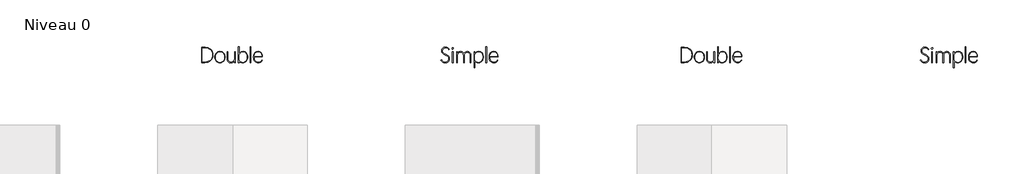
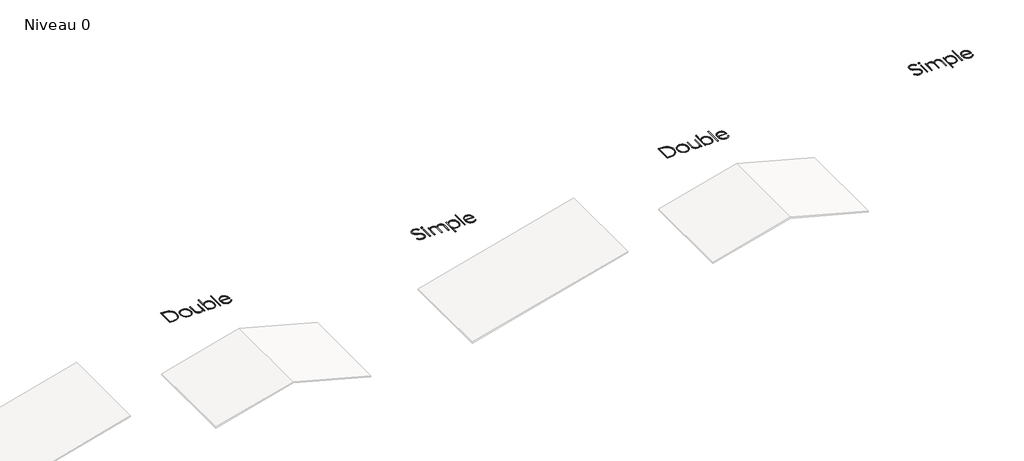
# One storey, part 25 of 26: 4 proxies.
"""IFC4 building model written with IfcOpenShell, lengths in millimetres."""

from ifc_helpers import new_model, si_unit, origin, origin_with_axes, place, context, project, spatial, polyline, outline, extrude, element, save

model = new_model("IFC4")

# Units and contexts
model_context = context("Model", 3, world=origin())
ifc_project = project(units=[si_unit("LENGTHUNIT", "METRE", prefix="MILLI")], contexts=[model_context])

# Site, building, storey
site = spatial("IfcSite", under=ifc_project)
building = spatial("IfcBuilding", under=site)
storey = spatial("IfcBuildingStorey", under=building, Name="Niveau 0", Elevation=0.0)

# Proxies
placement = place(None, origin())
element("IfcBuildingElementProxy", 1, Name="5 mm", ObjectType="5 mm", at=placement, inside=storey, context=model_context, shape_type="SweptSolid", body=[
    extrude(outline(polyline([(2014.4887393, 5620.5662903), (2014.4887393, 6125.5935806), (2125.3813725, 6125.5935806), (2183.3586482, 6121.4660982), (2234.6774824, 6109.0836509), (2279.3378751, 6088.4462389), (2317.3398263, 6059.553862), (2347.6784655, 6023.355043), (2369.3489221, 5980.7983046), (2382.351196, 5931.8836467), (2386.6852873, 5876.6110694), (2382.1962393, 5821.1177963), (2368.7290954, 5771.5410508), (2346.2838554, 5727.880833), (2314.8605195, 5690.1371429), (2275.8396107, 5659.6998949), (2230.6016522, 5637.9590035), (2179.1466439, 5624.9144686), (2121.474586, 5620.5662903), (2014.4887393, 5620.5662903)]), holes=[polyline([(2037.7791975, 6104.1062546), (2037.7791975, 5642.0536163), (2119.0704096, 5642.0536163), (2172.7840289, 5645.9604028), (2220.4778159, 5657.6807624), (2262.1517709, 5677.2146951), (2297.8058937, 5704.5622008), (2326.3695745, 5738.7090178), (2346.7722037, 5778.640884), (2359.0137813, 5824.3577995), (2363.0943071, 5875.8597643), (2359.1217814, 5927.3711204), (2347.2042042, 5972.6654268), (2327.3415755, 6011.7426835), (2299.5338954, 6044.6028905), (2264.6357734, 6070.6356123), (2223.501819, 6089.2304136), (2176.1320322, 6100.3872944), (2122.5264131, 6104.1062546), (2037.7791975, 6104.1062546)])]), origin_with_axes(), (0.0, 0.0, 1.0), 10.0),
    extrude(outline(polyline([(2623.0458727, 5612.1516732), (2586.6498362, 5615.4104591), (2553.9445859, 5625.1868167), (2524.9301219, 5641.4807461), (2499.6064443, 5664.2922473), (2479.0629454, 5692.3347103), (2464.3890176, 5724.321525), (2455.5846609, 5760.2526916), (2452.6498754, 5800.1282099), (2455.6832697, 5840.2479024), (2464.7834528, 5876.4608084), (2479.9504246, 5908.7669278), (2501.184185, 5937.1662607), (2527.0854285, 5960.3064579), (2556.2548491, 5976.8351702), (2588.6924469, 5986.7523975), (2624.3982219, 5990.05814), (2660.6299105, 5986.7430062), (2693.1426389, 5976.7976049), (2721.9364069, 5960.2219361), (2747.0112147, 5937.0159997), (2767.3246265, 5908.6166668), (2781.8342063, 5876.4608084), (2790.5399541, 5840.5484245), (2793.4418701, 5800.879515), (2790.5023889, 5761.1026055), (2781.6839452, 5725.1667433), (2766.9865392, 5693.0719284), (2746.4101707, 5664.8181609), (2721.0630147, 5641.7765725), (2692.0532465, 5625.3182951), (2659.3808658, 5615.4433287), (2623.0458727, 5612.1516732)]), holes=[polyline([(2623.7971778, 5632.887694), (2655.5586011, 5635.8130883), (2683.9767166, 5644.589271), (2709.0515244, 5659.2162422), (2730.7830245, 5679.6940019), (2748.33539, 5704.8392446), (2760.8727939, 5733.4686647), (2768.3952362, 5765.5822622), (2770.902717, 5801.1800371), (2768.4046275, 5836.7684207), (2760.9103591, 5868.8538442), (2748.4199118, 5897.4363078), (2730.9332855, 5922.5158112), (2709.2863073, 5942.9278317), (2684.3148039, 5957.5078464), (2656.0187755, 5966.2558552), (2624.3982219, 5969.1718581), (2592.6931466, 5966.204203), (2564.1435527, 5957.3012375), (2538.7494402, 5942.4629617), (2516.5108091, 5921.6893756), (2498.4325301, 5896.2670892), (2485.5194736, 5867.4827124), (2477.7716398, 5835.3362453), (2475.1890285, 5799.8276879), (2477.7293788, 5764.394261), (2485.35043, 5732.4731854), (2498.0521819, 5704.0644612), (2515.8346345, 5679.1680884), (2537.8243958, 5658.9204158), (2563.1480734, 5644.4577926), (2591.8056674, 5635.7802187), (2623.7971778, 5632.887694)])]), origin_with_axes(), (0.0, 0.0, 1.0), 10.0),
    extrude(outline(polyline([(3132.8815156, 5620.8668124), (3111.3941897, 5620.8668124), (3111.3941897, 5682.6240918), (3088.9301671, 5652.4028441), (3061.3572698, 5630.2581262), (3028.6003673, 5616.6782864), (2991.6361563, 5612.1516732), (2963.9505632, 5614.5041973), (2939.3453211, 5621.5617696), (2917.8204299, 5633.3243901), (2899.3758896, 5649.7920588), (2884.5845704, 5670.4200796), (2874.0193424, 5694.6637561), (2867.6802056, 5722.5230885), (2865.56716, 5753.9980766), (2865.56716, 5981.4932618), (2887.355008, 5981.4932618), (2887.355008, 5756.1017309), (2889.1252706, 5728.9326601), (2894.4360586, 5704.8251576), (2903.2873718, 5683.7792234), (2915.6792104, 5665.7948575), (2931.1607911, 5651.3979735), (2949.2813311, 5641.1144849), (2970.0408302, 5634.9443917), (2993.4392885, 5632.887694), (3017.8191391, 5635.0758701), (3040.0202049, 5641.6403985), (3060.0424859, 5652.581279), (3077.8859821, 5667.8985118), (3092.5458229, 5686.5872262), (3103.0171378, 5707.6425518), (3109.2999267, 5731.0644883), (3111.3941897, 5756.853036), (3111.3941897, 5981.4932618), (3132.8815156, 5981.4932618), (3132.8815156, 5620.8668124)])), origin_with_axes(), (0.0, 0.0, 1.0), 10.0),
    extrude(outline(polyline([(3261.2044272, 5681.8727867), (3260.1526001, 5620.5662903), (3238.3647521, 5620.5662903), (3238.3647521, 6154.4436965), (3260.1526001, 6154.4436965), (3260.1526001, 5899.1502225), (3282.59784, 5935.4006937), (3313.7206539, 5964.5137665), (3332.5643251, 5975.6894299), (3353.107824, 5983.6720466), (3375.3511507, 5988.4616166), (3399.2943052, 5990.05814), (3432.2390339, 5987.0857892), (3461.3521067, 5978.1687367), (3486.6335234, 5963.3069827), (3508.0832841, 5942.500527), (3525.1754752, 5916.5851966), (3537.3841831, 5886.3968184), (3544.7094079, 5851.9353925), (3547.1511494, 5813.2009187), (3544.4229728, 5767.8502645), (3536.2384428, 5727.9653548), (3522.5975595, 5693.5461898), (3503.500323, 5664.5927694), (3479.8295166, 5641.6497898), (3452.4679238, 5625.2619472), (3421.4155448, 5615.4292417), (3386.6723794, 5612.1516732), (3344.3363369, 5617.0351563), (3308.9874318, 5631.6856058), (3281.1140125, 5653.9993674), (3261.2044272, 5681.8727867)]), holes=[polyline([(3260.1526001, 5817.8590104), (3260.1526001, 5753.6975546), (3262.3642545, 5729.5947477), (3268.9992177, 5707.3232471), (3280.0574897, 5686.8830526), (3295.5390704, 5668.2741644), (3314.5236113, 5652.7925836), (3336.0907634, 5641.7343116), (3360.2405268, 5635.0993484), (3386.9729015, 5632.887694), (3416.4851051, 5635.7379577), (3442.9639143, 5644.288749), (3466.4093292, 5658.5400676), (3486.8213497, 5678.4919138), (3503.3547576, 5703.9940264), (3515.1643347, 5734.8961444), (3522.2500809, 5771.1982678), (3524.6119964, 5812.9003967), (3522.5130377, 5847.6952143), (3516.2161618, 5878.4517669), (3505.7213687, 5905.1700547), (3491.0286582, 5927.8500775), (3472.6357702, 5945.9283565), (3451.0404441, 5958.841413), (3426.2426801, 5966.5892468), (3398.242478, 5969.1718581), (3368.8993181, 5966.5000293), (3342.4768568, 5958.484543), (3318.975094, 5945.1253992), (3298.3940298, 5926.4225978), (3281.6634043, 5903.6064009), (3269.7129575, 5877.9070707), (3262.5426895, 5849.3246072), (3260.1526001, 5817.8590104)])]), origin_with_axes(), (0.0, 0.0, 1.0), 10.0),
    extrude(outline(polyline([(3632.6496702, 5620.5662903), (3632.6496702, 6154.4436965), (3654.4375182, 6154.4436965), (3654.4375182, 5620.5662903), (3632.6496702, 5620.5662903)])), origin_with_axes(), (0.0, 0.0, 1.0), 10.0),
    extrude(outline(polyline([(4038.8052088, 5807.641261), (3763.3767581, 5807.641261), (3765.2409339, 5766.4086978), (3771.8852884, 5730.7639663), (3783.3098216, 5700.7070665), (3799.5145335, 5676.2379985), (3819.6823799, 5657.2534576), (3842.9963164, 5643.6501396), (3869.456343, 5635.4280444), (3899.0624597, 5632.587172), (3935.2753657, 5636.8132632), (3967.280963, 5649.4915368), (3994.2903815, 5670.6219928), (4015.5147507, 5700.2046312), (4034.5979003, 5689.9868818), (4010.405876, 5656.1593696), (3979.3018447, 5631.6104753), (3941.9619811, 5616.6782864), (3899.0624597, 5611.7008901), (3864.8921645, 5614.8892411), (3834.3563077, 5624.0035112), (3807.4548893, 5639.0437002), (3784.1879094, 5660.0098082), (3765.4193688, 5687.2493139), (3752.0132684, 5721.1096957), (3743.9696081, 5761.5909538), (3741.2883881, 5808.6930881), (3744.0682169, 5847.6905186), (3752.4077036, 5882.6402929), (3766.306848, 5913.5424109), (3785.7656502, 5940.3968727), (3809.525674, 5962.1236771), (3836.3284836, 5977.6428232), (3866.1740788, 5986.9543108), (3899.0624597, 5990.05814), (3930.4106651, 5987.2172676), (3958.0399103, 5978.6946503), (3981.9501952, 5964.4902882), (4002.1415198, 5944.6041812), (4018.1818838, 5919.3274602), (4029.6392866, 5888.9512557), (4036.5137283, 5853.4755679), (4038.8052088, 5812.9003967), (4038.8052088, 5807.641261)]), holes=[polyline([(4016.5665778, 5827.9264988), (4014.0027491, 5860.7256622), (4007.6636123, 5889.2517778), (3997.5491674, 5913.5048456), (3983.6594143, 5933.4848657), (3966.4920927, 5949.0979249), (3946.5449422, 5960.25011), (3923.8179628, 5966.9414211), (3898.3111546, 5969.1718581), (3871.7196496, 5966.8850732), (3847.5417123, 5960.0247185), (3825.7773425, 5948.590794), (3806.4265405, 5932.5832996), (3790.1936546, 5912.3215401), (3777.7830334, 5888.1248201), (3769.194677, 5859.9931397), (3764.4285852, 5827.9264988), (4016.5665778, 5827.9264988)])]), origin_with_axes(), (0.0, 0.0, 1.0), 10.0),
])
element("IfcBuildingElementProxy", 2, Name="5 mm", ObjectType="5 mm", at=placement, inside=storey, context=model_context, shape_type="SweptSolid", body=[
    extrude(outline(polyline([(18014.4887393, 5620.5662903), (18014.4887393, 6125.5935806), (18125.3813725, 6125.5935806), (18183.3586482, 6121.4660982), (18234.6774824, 6109.0836509), (18279.3378751, 6088.4462389), (18317.3398263, 6059.553862), (18347.6784655, 6023.355043), (18369.3489221, 5980.7983046), (18382.351196, 5931.8836467), (18386.6852873, 5876.6110694), (18382.1962393, 5821.1177963), (18368.7290954, 5771.5410508), (18346.2838554, 5727.880833), (18314.8605195, 5690.1371429), (18275.8396107, 5659.6998949), (18230.6016522, 5637.9590035), (18179.1466439, 5624.9144686), (18121.474586, 5620.5662903), (18014.4887393, 5620.5662903)]), holes=[polyline([(18037.7791975, 6104.1062546), (18037.7791975, 5642.0536163), (18119.0704096, 5642.0536163), (18172.7840289, 5645.9604028), (18220.4778159, 5657.6807624), (18262.1517709, 5677.2146951), (18297.8058937, 5704.5622008), (18326.3695745, 5738.7090178), (18346.7722037, 5778.640884), (18359.0137813, 5824.3577995), (18363.0943071, 5875.8597643), (18359.1217814, 5927.3711204), (18347.2042042, 5972.6654268), (18327.3415755, 6011.7426835), (18299.5338954, 6044.6028905), (18264.6357734, 6070.6356123), (18223.501819, 6089.2304136), (18176.1320322, 6100.3872944), (18122.5264131, 6104.1062546), (18037.7791975, 6104.1062546)])]), origin_with_axes(), (0.0, 0.0, 1.0), 10.0),
    extrude(outline(polyline([(18623.0458727, 5612.1516732), (18586.6498362, 5615.4104591), (18553.9445859, 5625.1868167), (18524.9301219, 5641.4807461), (18499.6064443, 5664.2922473), (18479.0629454, 5692.3347103), (18464.3890176, 5724.321525), (18455.5846609, 5760.2526916), (18452.6498754, 5800.1282099), (18455.6832697, 5840.2479024), (18464.7834528, 5876.4608084), (18479.9504246, 5908.7669278), (18501.184185, 5937.1662607), (18527.0854285, 5960.3064579), (18556.2548491, 5976.8351702), (18588.6924469, 5986.7523975), (18624.3982219, 5990.05814), (18660.6299105, 5986.7430062), (18693.1426389, 5976.7976049), (18721.9364069, 5960.2219361), (18747.0112147, 5937.0159997), (18767.3246265, 5908.6166668), (18781.8342063, 5876.4608084), (18790.5399541, 5840.5484245), (18793.4418701, 5800.879515), (18790.5023889, 5761.1026055), (18781.6839452, 5725.1667433), (18766.9865392, 5693.0719284), (18746.4101707, 5664.8181609), (18721.0630147, 5641.7765725), (18692.0532465, 5625.3182951), (18659.3808658, 5615.4433287), (18623.0458727, 5612.1516732)]), holes=[polyline([(18623.7971778, 5632.887694), (18655.5586011, 5635.8130883), (18683.9767166, 5644.589271), (18709.0515244, 5659.2162422), (18730.7830245, 5679.6940019), (18748.33539, 5704.8392446), (18760.8727939, 5733.4686647), (18768.3952362, 5765.5822622), (18770.902717, 5801.1800371), (18768.4046275, 5836.7684207), (18760.9103591, 5868.8538442), (18748.4199118, 5897.4363078), (18730.9332855, 5922.5158112), (18709.2863073, 5942.9278317), (18684.3148039, 5957.5078464), (18656.0187755, 5966.2558552), (18624.3982219, 5969.1718581), (18592.6931466, 5966.204203), (18564.1435527, 5957.3012375), (18538.7494402, 5942.4629617), (18516.5108091, 5921.6893756), (18498.4325301, 5896.2670892), (18485.5194736, 5867.4827124), (18477.7716398, 5835.3362453), (18475.1890285, 5799.8276879), (18477.7293788, 5764.394261), (18485.35043, 5732.4731854), (18498.0521819, 5704.0644612), (18515.8346345, 5679.1680884), (18537.8243958, 5658.9204158), (18563.1480734, 5644.4577926), (18591.8056674, 5635.7802187), (18623.7971778, 5632.887694)])]), origin_with_axes(), (0.0, 0.0, 1.0), 10.0),
    extrude(outline(polyline([(19132.8815156, 5620.8668124), (19111.3941897, 5620.8668124), (19111.3941897, 5682.6240918), (19088.9301671, 5652.4028441), (19061.3572698, 5630.2581262), (19028.6003673, 5616.6782864), (18991.6361563, 5612.1516732), (18963.9505632, 5614.5041973), (18939.3453211, 5621.5617696), (18917.8204299, 5633.3243901), (18899.3758896, 5649.7920588), (18884.5845704, 5670.4200796), (18874.0193424, 5694.6637561), (18867.6802056, 5722.5230885), (18865.56716, 5753.9980766), (18865.56716, 5981.4932618), (18887.355008, 5981.4932618), (18887.355008, 5756.1017309), (18889.1252706, 5728.9326601), (18894.4360586, 5704.8251576), (18903.2873718, 5683.7792234), (18915.6792104, 5665.7948575), (18931.1607911, 5651.3979735), (18949.2813311, 5641.1144849), (18970.0408302, 5634.9443917), (18993.4392885, 5632.887694), (19017.8191391, 5635.0758701), (19040.0202049, 5641.6403985), (19060.0424859, 5652.581279), (19077.8859821, 5667.8985118), (19092.5458229, 5686.5872262), (19103.0171378, 5707.6425518), (19109.2999267, 5731.0644883), (19111.3941897, 5756.853036), (19111.3941897, 5981.4932618), (19132.8815156, 5981.4932618), (19132.8815156, 5620.8668124)])), origin_with_axes(), (0.0, 0.0, 1.0), 10.0),
    extrude(outline(polyline([(19261.2044272, 5681.8727867), (19260.1526001, 5620.5662903), (19238.3647521, 5620.5662903), (19238.3647521, 6154.4436965), (19260.1526001, 6154.4436965), (19260.1526001, 5899.1502225), (19282.59784, 5935.4006937), (19313.7206539, 5964.5137665), (19332.5643251, 5975.6894299), (19353.107824, 5983.6720466), (19375.3511507, 5988.4616166), (19399.2943052, 5990.05814), (19432.2390339, 5987.0857892), (19461.3521067, 5978.1687367), (19486.6335234, 5963.3069827), (19508.0832841, 5942.500527), (19525.1754752, 5916.5851966), (19537.3841831, 5886.3968184), (19544.7094079, 5851.9353925), (19547.1511494, 5813.2009187), (19544.4229728, 5767.8502645), (19536.2384428, 5727.9653548), (19522.5975595, 5693.5461898), (19503.500323, 5664.5927694), (19479.8295166, 5641.6497898), (19452.4679238, 5625.2619472), (19421.4155448, 5615.4292417), (19386.6723794, 5612.1516732), (19344.3363369, 5617.0351563), (19308.9874318, 5631.6856058), (19281.1140125, 5653.9993674), (19261.2044272, 5681.8727867)]), holes=[polyline([(19260.1526001, 5817.8590104), (19260.1526001, 5753.6975546), (19262.3642545, 5729.5947477), (19268.9992177, 5707.3232471), (19280.0574897, 5686.8830526), (19295.5390704, 5668.2741644), (19314.5236113, 5652.7925836), (19336.0907634, 5641.7343116), (19360.2405268, 5635.0993484), (19386.9729015, 5632.887694), (19416.4851051, 5635.7379577), (19442.9639143, 5644.288749), (19466.4093292, 5658.5400676), (19486.8213497, 5678.4919138), (19503.3547576, 5703.9940264), (19515.1643347, 5734.8961444), (19522.2500809, 5771.1982678), (19524.6119964, 5812.9003967), (19522.5130377, 5847.6952143), (19516.2161618, 5878.4517669), (19505.7213687, 5905.1700547), (19491.0286582, 5927.8500775), (19472.6357702, 5945.9283565), (19451.0404441, 5958.841413), (19426.2426801, 5966.5892468), (19398.242478, 5969.1718581), (19368.8993181, 5966.5000293), (19342.4768568, 5958.484543), (19318.975094, 5945.1253992), (19298.3940298, 5926.4225978), (19281.6634043, 5903.6064009), (19269.7129575, 5877.9070707), (19262.5426895, 5849.3246072), (19260.1526001, 5817.8590104)])]), origin_with_axes(), (0.0, 0.0, 1.0), 10.0),
    extrude(outline(polyline([(19632.6496702, 5620.5662903), (19632.6496702, 6154.4436965), (19654.4375182, 6154.4436965), (19654.4375182, 5620.5662903), (19632.6496702, 5620.5662903)])), origin_with_axes(), (0.0, 0.0, 1.0), 10.0),
    extrude(outline(polyline([(20038.8052088, 5807.641261), (19763.3767581, 5807.641261), (19765.2409339, 5766.4086978), (19771.8852884, 5730.7639663), (19783.3098216, 5700.7070665), (19799.5145335, 5676.2379985), (19819.6823799, 5657.2534576), (19842.9963164, 5643.6501396), (19869.456343, 5635.4280444), (19899.0624597, 5632.587172), (19935.2753657, 5636.8132632), (19967.280963, 5649.4915368), (19994.2903815, 5670.6219928), (20015.5147507, 5700.2046312), (20034.5979003, 5689.9868818), (20010.405876, 5656.1593696), (19979.3018447, 5631.6104753), (19941.9619811, 5616.6782864), (19899.0624597, 5611.7008901), (19864.8921645, 5614.8892411), (19834.3563077, 5624.0035112), (19807.4548893, 5639.0437002), (19784.1879094, 5660.0098082), (19765.4193688, 5687.2493139), (19752.0132684, 5721.1096957), (19743.9696081, 5761.5909538), (19741.2883881, 5808.6930881), (19744.0682169, 5847.6905186), (19752.4077036, 5882.6402929), (19766.306848, 5913.5424109), (19785.7656502, 5940.3968727), (19809.525674, 5962.1236771), (19836.3284836, 5977.6428232), (19866.1740788, 5986.9543108), (19899.0624597, 5990.05814), (19930.4106651, 5987.2172676), (19958.0399103, 5978.6946503), (19981.9501952, 5964.4902882), (20002.1415198, 5944.6041812), (20018.1818838, 5919.3274602), (20029.6392866, 5888.9512557), (20036.5137283, 5853.4755679), (20038.8052088, 5812.9003967), (20038.8052088, 5807.641261)]), holes=[polyline([(20016.5665778, 5827.9264988), (20014.0027491, 5860.7256622), (20007.6636123, 5889.2517778), (19997.5491674, 5913.5048456), (19983.6594143, 5933.4848657), (19966.4920927, 5949.0979249), (19946.5449422, 5960.25011), (19923.8179628, 5966.9414211), (19898.3111546, 5969.1718581), (19871.7196496, 5966.8850732), (19847.5417123, 5960.0247185), (19825.7773425, 5948.590794), (19806.4265405, 5932.5832996), (19790.1936546, 5912.3215401), (19777.7830334, 5888.1248201), (19769.194677, 5859.9931397), (19764.4285852, 5827.9264988), (20016.5665778, 5827.9264988)])]), origin_with_axes(), (0.0, 0.0, 1.0), 10.0),
])
element("IfcBuildingElementProxy", 3, Name="5 mm", ObjectType="5 mm", at=placement, inside=storey, context=model_context, shape_type="SweptSolid", body=[
    extrude(outline(polyline([(9998.5610711, 5698.401499), (10019.447353, 5709.9715976), (10041.4981578, 5676.0501722), (10068.8832288, 5652.4216267), (10101.6401313, 5638.5600475), (10139.8064305, 5633.9395212), (10164.4022813, 5635.8553492), (10186.8005647, 5641.6028332), (10207.0012806, 5651.1819733), (10225.0044292, 5664.5927694), (10239.7957484, 5681.2341774), (10250.3609764, 5700.5051533), (10256.7001132, 5722.405697), (10258.8131588, 5746.9358086), (10257.2542007, 5769.3857443), (10252.5773264, 5789.5535906), (10244.782536, 5807.4393477), (10233.8698294, 5823.0430156), (10219.2569451, 5836.9092904), (10200.3616218, 5849.5828683), (10149.7236578, 5871.3519337), (10091.3472513, 5896.1825674), (10069.0898377, 5910.3164946), (10051.4529504, 5925.5961621), (10038.0421543, 5942.5193096), (10028.4630142, 5961.5836766), (10022.7155302, 5982.7892631), (10020.7997022, 6006.1360692), (10023.1099654, 6032.4740087), (10030.0407549, 6056.4922937), (10041.5920709, 6078.1909242), (10057.7639132, 6097.5699002), (10077.6547158, 6113.5116554), (10100.3629126, 6124.8986233), (10125.8885035, 6131.7308041), (10154.2314885, 6134.0081977), (10196.4360526, 6128.7302794), (10231.9915666, 6112.8965243), (10260.3721169, 6088.6857174), (10281.0517899, 6058.2766433), (10260.315769, 6047.0070668), (10242.8103601, 6073.9413547), (10218.5432053, 6094.6398103), (10188.5661317, 6107.8252149), (10153.9309664, 6112.2203497), (10132.0632923, 6110.4688697), (10111.839098, 6105.2144296), (10093.2583837, 6096.4570295), (10076.3211493, 6084.1966694), (10062.2200916, 6068.9404801), (10052.1479076, 6051.1955927), (10046.1045972, 6030.9620072), (10044.0901604, 6008.2397235), (10045.7289446, 5988.5555298), (10050.6452974, 5970.6744683), (10058.8392187, 5954.5965391), (10070.3107085, 5940.3217422), (10104.9270911, 5915.2281517), (10156.3351428, 5893.4403037), (10187.9275223, 5881.3349003), (10214.6364187, 5867.858365), (10236.461832, 5853.0106979), (10253.4037621, 5836.791899), (10266.091427, 5818.6290981), (10275.1540448, 5797.9494251), (10280.5916155, 5774.7528801), (10282.404139, 5749.0394629), (10279.8872669, 5720.161173), (10272.3366507, 5694.0814947), (10259.7522902, 5670.8004278), (10242.1341855, 5650.3179724), (10220.6374683, 5633.6202165), (10196.41727, 5621.693248), (10169.4735907, 5614.5370669), (10139.8064305, 5612.1516732), (10094.7469069, 5617.6925483), (10056.0359115, 5634.3151737), (10023.8988357, 5661.4185053), (9998.5610711, 5698.401499)])), origin_with_axes(), (0.0, 0.0, 1.0), 10.0),
    extrude(outline(polyline([(10391.343379, 6069.2456978), (10382.2338046, 6070.8234386), (10374.7395362, 6075.5566607), (10369.7245746, 6082.8443202), (10368.0529208, 6092.085373), (10369.7245746, 6101.3452084), (10374.7395362, 6108.6892157), (10382.2338046, 6113.4787858), (10391.343379, 6115.0753091), (10400.9976495, 6113.4787858), (10408.3228743, 6108.6892157), (10412.9434007, 6101.3452084), (10414.4835761, 6092.085373), (10412.9434007, 6082.8443202), (10408.3228743, 6075.5566607), (10400.9976495, 6070.8234386), (10391.343379, 6069.2456978)])), origin_with_axes(), (0.0, 0.0, 1.0), 10.0),
    extrude(outline(polyline([(10402.6129555, 5620.5662903), (10380.6748465, 5620.5662903), (10380.6748465, 5981.1927398), (10402.6129555, 5981.1927398), (10402.6129555, 5620.5662903)])), origin_with_axes(), (0.0, 0.0, 1.0), 10.0),
    extrude(outline(polyline([(10998.2476412, 5620.5662903), (10976.7603152, 5620.5662903), (10976.7603152, 5845.2065161), (10975.1966615, 5874.8408068), (10970.5057003, 5900.3335281), (10962.6874315, 5921.68468), (10951.7418553, 5938.8942625), (10938.0258415, 5952.1407106), (10921.8962601, 5961.6024592), (10903.353111, 5967.2795084), (10882.3963943, 5969.1718581), (10860.134285, 5966.9508124), (10839.7786123, 5960.2876753), (10821.3293764, 5949.1824467), (10804.7865772, 5933.6351267), (10791.1456939, 5914.6505859), (10781.4022058, 5893.2336948), (10775.556113, 5869.3844535), (10773.6074154, 5843.1028618), (10773.6074154, 5620.5662903), (10751.8195674, 5620.5662903), (10751.8195674, 5847.0096484), (10750.3780007, 5874.4510673), (10746.0533007, 5898.6243089), (10738.8454674, 5919.5293734), (10728.7545007, 5937.1662607), (10715.817966, 5951.1687096), (10700.0734284, 5961.1704588), (10681.520888, 5967.1715083), (10660.1603448, 5969.1718581), (10636.6491908, 5967.0400299), (10615.4013433, 5960.6445452), (10596.4168025, 5949.985404), (10579.6955683, 5935.0626064), (10566.054685, 5916.6838054), (10556.311197, 5895.6566538), (10550.4651041, 5871.9811517), (10548.5164065, 5845.6572992), (10548.5164065, 5620.5662903), (10526.7285585, 5620.5662903), (10526.7285585, 5981.1927398), (10548.5164065, 5981.1927398), (10548.5164065, 5922.4406807), (10570.2666893, 5951.7415797), (10596.2994111, 5972.9283836), (10627.065355, 5985.7757009), (10661.9634771, 5990.05814), (10682.0092364, 5988.5837037), (10700.2236894, 5984.1603949), (10716.6068364, 5976.7882136), (10731.1586771, 5966.4671597), (10753.5663518, 5938.969393), (10766.2446254, 5903.6580531), (10785.0648182, 5940.0024375), (10812.6752807, 5967.2935954), (10846.1834883, 5984.3670038), (10882.6969163, 5990.05814), (10909.0771168, 5987.7760507), (10932.1703574, 5980.929783), (10951.9766382, 5969.5193367), (10968.4959591, 5953.544712), (10981.51232, 5933.193735), (10990.8097207, 5908.6542321), (10996.3881611, 5879.9262032), (10998.2476412, 5847.0096484), (10998.2476412, 5620.5662903)])), origin_with_axes(), (0.0, 0.0, 1.0), 10.0),
    extrude(outline(polyline([(11126.5705528, 5681.8727867), (11125.5187256, 5454.6781236), (11103.7308776, 5454.6781236), (11103.7308776, 5981.1927398), (11125.5187256, 5981.1927398), (11125.5187256, 5899.1502225), (11147.9827482, 5935.58852), (11178.2603439, 5964.6640275), (11196.610971, 5975.7739517), (11216.9525567, 5983.7096119), (11239.2851009, 5988.471008), (11263.6086036, 5990.05814), (11296.0180274, 5986.9637021), (11324.8775347, 5977.6803884), (11350.1871254, 5962.2081989), (11371.9467994, 5940.5471337), (11389.4334257, 5913.9368461), (11401.923873, 5883.6169895), (11409.4181414, 5849.587564), (11411.9162309, 5811.8485695), (11409.1833586, 5766.8453939), (11400.9847417, 5727.2516149), (11387.3203801, 5693.0672328), (11368.1902739, 5664.2922473), (11344.5053805, 5641.4807461), (11317.1766574, 5625.1868167), (11286.2041045, 5615.4104591), (11251.5877219, 5612.1516732), (11209.4019404, 5617.0351563), (11174.2032963, 5631.6856058), (11146.4425728, 5653.9993674), (11126.5705528, 5681.8727867)]), holes=[polyline([(11125.5187256, 5817.8590104), (11125.5187256, 5753.6975546), (11127.73038, 5729.5947477), (11134.3653432, 5707.3232471), (11145.4236152, 5686.8830526), (11160.905196, 5668.2741644), (11179.8709542, 5652.7925836), (11201.3817584, 5641.7343116), (11225.4376087, 5635.0993484), (11252.038505, 5632.887694), (11281.4802737, 5635.7144795), (11307.8980394, 5644.1948358), (11331.291802, 5658.3287631), (11351.6615616, 5678.1162612), (11368.1621, 5703.4070692), (11379.9481988, 5734.0509261), (11387.019858, 5770.0478319), (11389.3770778, 5811.3977865), (11387.2170756, 5845.3849511), (11380.7370691, 5875.8221991), (11369.9370583, 5902.7095304), (11354.8170431, 5926.0469452), (11336.0907634, 5944.9140946), (11314.471959, 5958.3906299), (11289.9606301, 5966.4765511), (11262.5567764, 5969.1718581), (11232.0866588, 5966.3873336), (11205.1382839, 5958.03376), (11181.7116517, 5944.1111373), (11161.8067621, 5924.6194655), (11145.9307462, 5901.2397898), (11134.5907348, 5875.6531554), (11127.7867279, 5847.8595623), (11125.5187256, 5817.8590104)])]), origin_with_axes(), (0.0, 0.0, 1.0), 10.0),
    extrude(outline(polyline([(11498.0157957, 5620.5662903), (11498.0157957, 6154.4436965), (11519.8036437, 6154.4436965), (11519.8036437, 5620.5662903), (11498.0157957, 5620.5662903)])), origin_with_axes(), (0.0, 0.0, 1.0), 10.0),
    extrude(outline(polyline([(11904.1713344, 5807.641261), (11628.7428836, 5807.641261), (11630.6070594, 5766.4086978), (11637.2514139, 5730.7639663), (11648.6759471, 5700.7070665), (11664.8806591, 5676.2379985), (11685.0485054, 5657.2534576), (11708.3624419, 5643.6501396), (11734.8224685, 5635.4280444), (11764.4285852, 5632.587172), (11800.6414912, 5636.8132632), (11832.6470886, 5649.4915368), (11859.656507, 5670.6219928), (11880.8808762, 5700.2046312), (11899.9640258, 5689.9868818), (11875.7720015, 5656.1593696), (11844.6679702, 5631.6104753), (11807.3281066, 5616.6782864), (11764.4285852, 5611.7008901), (11730.25829, 5614.8892411), (11699.7224332, 5624.0035112), (11672.8210149, 5639.0437002), (11649.554035, 5660.0098082), (11630.7854944, 5687.2493139), (11617.3793939, 5721.1096957), (11609.3357337, 5761.5909538), (11606.6545136, 5808.6930881), (11609.4343425, 5847.6905186), (11617.7738291, 5882.6402929), (11631.6729735, 5913.5424109), (11651.1317757, 5940.3968727), (11674.8917996, 5962.1236771), (11701.6946091, 5977.6428232), (11731.5402043, 5986.9543108), (11764.4285852, 5990.05814), (11795.7767907, 5987.2172676), (11823.4060358, 5978.6946503), (11847.3163207, 5964.4902882), (11867.5076454, 5944.6041812), (11883.5480093, 5919.3274602), (11895.0054121, 5888.9512557), (11901.8798538, 5853.4755679), (11904.1713344, 5812.9003967), (11904.1713344, 5807.641261)]), holes=[polyline([(11881.9327033, 5827.9264988), (11879.3688747, 5860.7256622), (11873.0297379, 5889.2517778), (11862.9152929, 5913.5048456), (11849.0255398, 5933.4848657), (11831.8582182, 5949.0979249), (11811.9110677, 5960.25011), (11789.1840884, 5966.9414211), (11763.6772801, 5969.1718581), (11737.0857751, 5966.8850732), (11712.9078378, 5960.0247185), (11691.1434681, 5948.590794), (11671.792666, 5932.5832996), (11655.5597801, 5912.3215401), (11643.149159, 5888.1248201), (11634.5608025, 5859.9931397), (11629.7947108, 5827.9264988), (11881.9327033, 5827.9264988)])]), origin_with_axes(), (0.0, 0.0, 1.0), 10.0),
])
element("IfcBuildingElementProxy", 4, Name="5 mm", ObjectType="5 mm", at=placement, inside=storey, context=model_context, shape_type="SweptSolid", body=[
    extrude(outline(polyline([(25998.5610711, 5698.401499), (26019.447353, 5709.9715976), (26041.4981578, 5676.0501722), (26068.8832288, 5652.4216267), (26101.6401313, 5638.5600475), (26139.8064305, 5633.9395212), (26164.4022813, 5635.8553492), (26186.8005647, 5641.6028332), (26207.0012806, 5651.1819733), (26225.0044292, 5664.5927694), (26239.7957484, 5681.2341774), (26250.3609764, 5700.5051533), (26256.7001132, 5722.405697), (26258.8131588, 5746.9358086), (26257.2542007, 5769.3857443), (26252.5773264, 5789.5535906), (26244.782536, 5807.4393477), (26233.8698294, 5823.0430156), (26219.2569451, 5836.9092904), (26200.3616218, 5849.5828683), (26149.7236578, 5871.3519337), (26091.3472513, 5896.1825674), (26069.0898377, 5910.3164946), (26051.4529504, 5925.5961621), (26038.0421543, 5942.5193096), (26028.4630142, 5961.5836766), (26022.7155302, 5982.7892631), (26020.7997022, 6006.1360692), (26023.1099654, 6032.4740087), (26030.0407549, 6056.4922937), (26041.5920709, 6078.1909242), (26057.7639132, 6097.5699002), (26077.6547158, 6113.5116554), (26100.3629126, 6124.8986233), (26125.8885035, 6131.7308041), (26154.2314885, 6134.0081977), (26196.4360526, 6128.7302794), (26231.9915666, 6112.8965243), (26260.3721169, 6088.6857174), (26281.0517899, 6058.2766433), (26260.315769, 6047.0070668), (26242.8103601, 6073.9413547), (26218.5432053, 6094.6398103), (26188.5661317, 6107.8252149), (26153.9309664, 6112.2203497), (26132.0632923, 6110.4688697), (26111.839098, 6105.2144296), (26093.2583837, 6096.4570295), (26076.3211493, 6084.1966694), (26062.2200916, 6068.9404801), (26052.1479076, 6051.1955927), (26046.1045972, 6030.9620072), (26044.0901604, 6008.2397235), (26045.7289446, 5988.5555298), (26050.6452974, 5970.6744683), (26058.8392187, 5954.5965391), (26070.3107085, 5940.3217422), (26104.9270911, 5915.2281517), (26156.3351428, 5893.4403037), (26187.9275223, 5881.3349003), (26214.6364187, 5867.858365), (26236.461832, 5853.0106979), (26253.4037621, 5836.791899), (26266.091427, 5818.6290981), (26275.1540448, 5797.9494251), (26280.5916155, 5774.7528801), (26282.404139, 5749.0394629), (26279.8872669, 5720.161173), (26272.3366507, 5694.0814947), (26259.7522902, 5670.8004278), (26242.1341855, 5650.3179724), (26220.6374683, 5633.6202165), (26196.41727, 5621.693248), (26169.4735907, 5614.5370669), (26139.8064305, 5612.1516732), (26094.7469069, 5617.6925483), (26056.0359115, 5634.3151737), (26023.8988357, 5661.4185053), (25998.5610711, 5698.401499)])), origin_with_axes(), (0.0, 0.0, 1.0), 10.0),
    extrude(outline(polyline([(26391.343379, 6069.2456978), (26382.2338046, 6070.8234386), (26374.7395362, 6075.5566607), (26369.7245746, 6082.8443202), (26368.0529208, 6092.085373), (26369.7245746, 6101.3452084), (26374.7395362, 6108.6892157), (26382.2338046, 6113.4787858), (26391.343379, 6115.0753091), (26400.9976495, 6113.4787858), (26408.3228743, 6108.6892157), (26412.9434007, 6101.3452084), (26414.4835761, 6092.085373), (26412.9434007, 6082.8443202), (26408.3228743, 6075.5566607), (26400.9976495, 6070.8234386), (26391.343379, 6069.2456978)])), origin_with_axes(), (0.0, 0.0, 1.0), 10.0),
    extrude(outline(polyline([(26402.6129555, 5620.5662903), (26380.6748465, 5620.5662903), (26380.6748465, 5981.1927398), (26402.6129555, 5981.1927398), (26402.6129555, 5620.5662903)])), origin_with_axes(), (0.0, 0.0, 1.0), 10.0),
    extrude(outline(polyline([(26998.2476412, 5620.5662903), (26976.7603152, 5620.5662903), (26976.7603152, 5845.2065161), (26975.1966615, 5874.8408068), (26970.5057003, 5900.3335281), (26962.6874315, 5921.68468), (26951.7418553, 5938.8942625), (26938.0258415, 5952.1407106), (26921.8962601, 5961.6024592), (26903.353111, 5967.2795084), (26882.3963943, 5969.1718581), (26860.134285, 5966.9508124), (26839.7786123, 5960.2876753), (26821.3293764, 5949.1824467), (26804.7865772, 5933.6351267), (26791.1456939, 5914.6505859), (26781.4022058, 5893.2336948), (26775.556113, 5869.3844535), (26773.6074154, 5843.1028618), (26773.6074154, 5620.5662903), (26751.8195674, 5620.5662903), (26751.8195674, 5847.0096484), (26750.3780007, 5874.4510673), (26746.0533007, 5898.6243089), (26738.8454674, 5919.5293734), (26728.7545007, 5937.1662607), (26715.817966, 5951.1687096), (26700.0734284, 5961.1704588), (26681.520888, 5967.1715083), (26660.1603448, 5969.1718581), (26636.6491908, 5967.0400299), (26615.4013433, 5960.6445452), (26596.4168025, 5949.985404), (26579.6955683, 5935.0626064), (26566.054685, 5916.6838054), (26556.311197, 5895.6566538), (26550.4651041, 5871.9811517), (26548.5164065, 5845.6572992), (26548.5164065, 5620.5662903), (26526.7285585, 5620.5662903), (26526.7285585, 5981.1927398), (26548.5164065, 5981.1927398), (26548.5164065, 5922.4406807), (26570.2666893, 5951.7415797), (26596.2994111, 5972.9283836), (26627.065355, 5985.7757009), (26661.9634771, 5990.05814), (26682.0092364, 5988.5837037), (26700.2236894, 5984.1603949), (26716.6068364, 5976.7882136), (26731.1586771, 5966.4671597), (26753.5663518, 5938.969393), (26766.2446254, 5903.6580531), (26785.0648182, 5940.0024375), (26812.6752807, 5967.2935954), (26846.1834883, 5984.3670038), (26882.6969163, 5990.05814), (26909.0771168, 5987.7760507), (26932.1703574, 5980.929783), (26951.9766382, 5969.5193367), (26968.4959591, 5953.544712), (26981.51232, 5933.193735), (26990.8097207, 5908.6542321), (26996.3881611, 5879.9262032), (26998.2476412, 5847.0096484), (26998.2476412, 5620.5662903)])), origin_with_axes(), (0.0, 0.0, 1.0), 10.0),
    extrude(outline(polyline([(27126.5705528, 5681.8727867), (27125.5187256, 5454.6781236), (27103.7308776, 5454.6781236), (27103.7308776, 5981.1927398), (27125.5187256, 5981.1927398), (27125.5187256, 5899.1502225), (27147.9827482, 5935.58852), (27178.2603439, 5964.6640275), (27196.610971, 5975.7739517), (27216.9525567, 5983.7096119), (27239.2851009, 5988.471008), (27263.6086036, 5990.05814), (27296.0180274, 5986.9637021), (27324.8775347, 5977.6803884), (27350.1871254, 5962.2081989), (27371.9467994, 5940.5471337), (27389.4334257, 5913.9368461), (27401.923873, 5883.6169895), (27409.4181414, 5849.587564), (27411.9162309, 5811.8485695), (27409.1833586, 5766.8453939), (27400.9847417, 5727.2516149), (27387.3203801, 5693.0672328), (27368.1902739, 5664.2922473), (27344.5053805, 5641.4807461), (27317.1766574, 5625.1868167), (27286.2041045, 5615.4104591), (27251.5877219, 5612.1516732), (27209.4019404, 5617.0351563), (27174.2032963, 5631.6856058), (27146.4425728, 5653.9993674), (27126.5705528, 5681.8727867)]), holes=[polyline([(27125.5187256, 5817.8590104), (27125.5187256, 5753.6975546), (27127.73038, 5729.5947477), (27134.3653432, 5707.3232471), (27145.4236152, 5686.8830526), (27160.905196, 5668.2741644), (27179.8709542, 5652.7925836), (27201.3817584, 5641.7343116), (27225.4376087, 5635.0993484), (27252.038505, 5632.887694), (27281.4802737, 5635.7144795), (27307.8980394, 5644.1948358), (27331.291802, 5658.3287631), (27351.6615616, 5678.1162612), (27368.1621, 5703.4070692), (27379.9481988, 5734.0509261), (27387.019858, 5770.0478319), (27389.3770778, 5811.3977865), (27387.2170756, 5845.3849511), (27380.7370691, 5875.8221991), (27369.9370583, 5902.7095304), (27354.8170431, 5926.0469452), (27336.0907634, 5944.9140946), (27314.471959, 5958.3906299), (27289.9606301, 5966.4765511), (27262.5567764, 5969.1718581), (27232.0866588, 5966.3873336), (27205.1382839, 5958.03376), (27181.7116517, 5944.1111373), (27161.8067621, 5924.6194655), (27145.9307462, 5901.2397898), (27134.5907348, 5875.6531554), (27127.7867279, 5847.8595623), (27125.5187256, 5817.8590104)])]), origin_with_axes(), (0.0, 0.0, 1.0), 10.0),
    extrude(outline(polyline([(27498.0157957, 5620.5662903), (27498.0157957, 6154.4436965), (27519.8036437, 6154.4436965), (27519.8036437, 5620.5662903), (27498.0157957, 5620.5662903)])), origin_with_axes(), (0.0, 0.0, 1.0), 10.0),
    extrude(outline(polyline([(27904.1713344, 5807.641261), (27628.7428836, 5807.641261), (27630.6070594, 5766.4086978), (27637.2514139, 5730.7639663), (27648.6759471, 5700.7070665), (27664.8806591, 5676.2379985), (27685.0485054, 5657.2534576), (27708.3624419, 5643.6501396), (27734.8224685, 5635.4280444), (27764.4285852, 5632.587172), (27800.6414912, 5636.8132632), (27832.6470886, 5649.4915368), (27859.656507, 5670.6219928), (27880.8808762, 5700.2046312), (27899.9640258, 5689.9868818), (27875.7720015, 5656.1593696), (27844.6679702, 5631.6104753), (27807.3281066, 5616.6782864), (27764.4285852, 5611.7008901), (27730.25829, 5614.8892411), (27699.7224332, 5624.0035112), (27672.8210149, 5639.0437002), (27649.554035, 5660.0098082), (27630.7854944, 5687.2493139), (27617.3793939, 5721.1096957), (27609.3357337, 5761.5909538), (27606.6545136, 5808.6930881), (27609.4343425, 5847.6905186), (27617.7738291, 5882.6402929), (27631.6729735, 5913.5424109), (27651.1317757, 5940.3968727), (27674.8917996, 5962.1236771), (27701.6946091, 5977.6428232), (27731.5402043, 5986.9543108), (27764.4285852, 5990.05814), (27795.7767907, 5987.2172676), (27823.4060358, 5978.6946503), (27847.3163207, 5964.4902882), (27867.5076454, 5944.6041812), (27883.5480093, 5919.3274602), (27895.0054121, 5888.9512557), (27901.8798538, 5853.4755679), (27904.1713344, 5812.9003967), (27904.1713344, 5807.641261)]), holes=[polyline([(27881.9327033, 5827.9264988), (27879.3688747, 5860.7256622), (27873.0297379, 5889.2517778), (27862.9152929, 5913.5048456), (27849.0255398, 5933.4848657), (27831.8582182, 5949.0979249), (27811.9110677, 5960.25011), (27789.1840884, 5966.9414211), (27763.6772801, 5969.1718581), (27737.0857751, 5966.8850732), (27712.9078378, 5960.0247185), (27691.1434681, 5948.590794), (27671.792666, 5932.5832996), (27655.5597801, 5912.3215401), (27643.149159, 5888.1248201), (27634.5608025, 5859.9931397), (27629.7947108, 5827.9264988), (27881.9327033, 5827.9264988)])]), origin_with_axes(), (0.0, 0.0, 1.0), 10.0),
])

save(model, "model.ifc")
